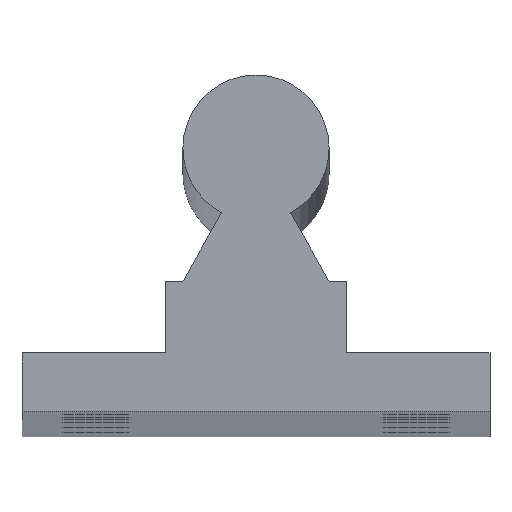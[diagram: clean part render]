
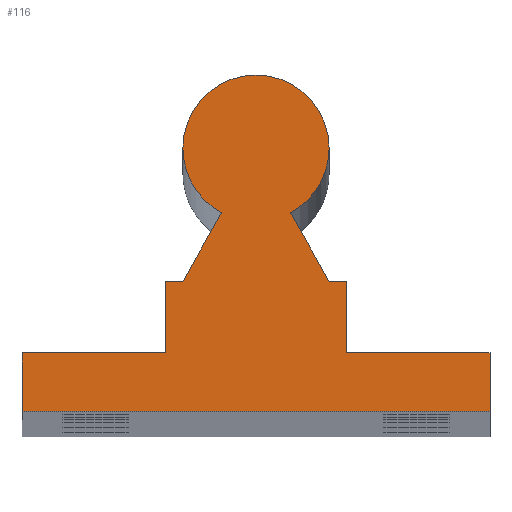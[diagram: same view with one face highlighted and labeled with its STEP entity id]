
A CAD part, top view. The second image highlights one B-rep face of the part: STEP entity #116.
In plain terms, the highlighted planar face has unit normal (0, 0, 1).
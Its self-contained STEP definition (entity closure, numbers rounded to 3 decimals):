
#12 = PLANE ( 'NONE',  #951 ) ;
#14 = LINE ( 'NONE', #324, #986 ) ;
#51 = ORIENTED_EDGE ( 'NONE', *, *, #80, .T. ) ;
#80 = EDGE_CURVE ( 'NONE', #1079, #1150, #100, .T. ) ;
#93 = DIRECTION ( 'NONE',  ( 0., 1., 0. ) ) ;
#94 = VERTEX_POINT ( 'NONE', #946 ) ;
#97 = CARTESIAN_POINT ( 'NONE',  ( -6.2, -7.5, 1000. ) ) ;
#100 = CIRCLE ( 'NONE', #491, 5. ) ;
#102 = ORIENTED_EDGE ( 'NONE', *, *, #2039, .T. ) ;
#116 = ADVANCED_FACE ( 'NONE', ( #1422 ), #12, .T. ) ;
#123 = VERTEX_POINT ( 'NONE', #1265 ) ;
#154 = ORIENTED_EDGE ( 'NONE', *, *, #1648, .T. ) ;
#159 = CARTESIAN_POINT ( 'NONE',  ( 5., 6.5, 1000. ) ) ;
#186 = DIRECTION ( 'NONE',  ( -0.492, -0.87, 0. ) ) ;
#238 = AXIS2_PLACEMENT_3D ( 'NONE', #776, #271, #2011 ) ;
#247 = ORIENTED_EDGE ( 'NONE', *, *, #1148, .T. ) ;
#271 = DIRECTION ( 'NONE',  ( 0., 0., 1. ) ) ;
#304 = VERTEX_POINT ( 'NONE', #1328 ) ;
#324 = CARTESIAN_POINT ( 'NONE',  ( -5., -2.6, 1000. ) ) ;
#338 = ORIENTED_EDGE ( 'NONE', *, *, #1468, .T. ) ;
#355 = ORIENTED_EDGE ( 'NONE', *, *, #670, .T. ) ;
#366 = VERTEX_POINT ( 'NONE', #1573 ) ;
#371 = CARTESIAN_POINT ( 'NONE',  ( -6.2, -7.5, 1000. ) ) ;
#411 = DIRECTION ( 'NONE',  ( 0., -1., 0. ) ) ;
#425 = DIRECTION ( 'NONE',  ( -0.492, 0.87, 0. ) ) ;
#427 = VERTEX_POINT ( 'NONE', #841 ) ;
#437 = VERTEX_POINT ( 'NONE', #991 ) ;
#457 = DIRECTION ( 'NONE',  ( 0., 0., 1. ) ) ;
#472 = CARTESIAN_POINT ( 'NONE',  ( -5., 6.5, 1000. ) ) ;
#478 = CARTESIAN_POINT ( 'NONE',  ( -2.35, 2.087, 1000. ) ) ;
#491 = AXIS2_PLACEMENT_3D ( 'NONE', #1199, #457, #2035 ) ;
#495 = DIRECTION ( 'NONE',  ( 1., 0., 0. ) ) ;
#530 = DIRECTION ( 'NONE',  ( -1., 0., 0. ) ) ;
#572 = LINE ( 'NONE', #1861, #609 ) ;
#609 = VECTOR ( 'NONE', #425, 1000. ) ;
#615 = ORIENTED_EDGE ( 'NONE', *, *, #1849, .T. ) ;
#654 = CARTESIAN_POINT ( 'NONE',  ( 16., -7.5, 1000. ) ) ;
#670 = EDGE_CURVE ( 'NONE', #366, #671, #2049, .T. ) ;
#671 = VERTEX_POINT ( 'NONE', #159 ) ;
#726 = DIRECTION ( 'NONE',  ( -1., 0., 0. ) ) ;
#734 = ORIENTED_EDGE ( 'NONE', *, *, #1036, .T. ) ;
#741 = EDGE_LOOP ( 'NONE', ( #1699, #154, #355, #995, #51, #615, #102, #1299, #1945, #338, #1223, #1353, #247, #734 ) ) ;
#776 = CARTESIAN_POINT ( 'NONE',  ( 0., 6.5, 1000. ) ) ;
#791 = VERTEX_POINT ( 'NONE', #371 ) ;
#799 = LINE ( 'NONE', #1116, #1858 ) ;
#818 = EDGE_CURVE ( 'NONE', #427, #1597, #1979, .T. ) ;
#838 = VECTOR ( 'NONE', #530, 1000. ) ;
#841 = CARTESIAN_POINT ( 'NONE',  ( 6.2, -2.6, 1000. ) ) ;
#877 = CARTESIAN_POINT ( 'NONE',  ( 0., 6.5, 1000. ) ) ;
#893 = EDGE_CURVE ( 'NONE', #1625, #123, #1665, .T. ) ;
#924 = VERTEX_POINT ( 'NONE', #1333 ) ;
#946 = CARTESIAN_POINT ( 'NONE',  ( -16., -11.5, 1000. ) ) ;
#951 = AXIS2_PLACEMENT_3D ( 'NONE', #1286, #972, #495 ) ;
#972 = DIRECTION ( 'NONE',  ( 0., 0., 1. ) ) ;
#986 = VECTOR ( 'NONE', #1559, 1000. ) ;
#991 = CARTESIAN_POINT ( 'NONE',  ( -5., -2.6, 1000. ) ) ;
#995 = ORIENTED_EDGE ( 'NONE', *, *, #1977, .T. ) ;
#1005 = LINE ( 'NONE', #1191, #2026 ) ;
#1010 = DIRECTION ( 'NONE',  ( 0., 0., 1. ) ) ;
#1036 = EDGE_CURVE ( 'NONE', #304, #427, #1612, .T. ) ;
#1039 = CARTESIAN_POINT ( 'NONE',  ( 16., -11.5, 1000. ) ) ;
#1079 = VERTEX_POINT ( 'NONE', #472 ) ;
#1090 = VERTEX_POINT ( 'NONE', #1789 ) ;
#1107 = EDGE_CURVE ( 'NONE', #94, #1625, #799, .T. ) ;
#1116 = CARTESIAN_POINT ( 'NONE',  ( -16., -11.5, 1000. ) ) ;
#1141 = LINE ( 'NONE', #1922, #1938 ) ;
#1148 = EDGE_CURVE ( 'NONE', #123, #304, #1267, .T. ) ;
#1150 = VERTEX_POINT ( 'NONE', #478 ) ;
#1191 = CARTESIAN_POINT ( 'NONE',  ( -16., -7.5, 1000. ) ) ;
#1199 = CARTESIAN_POINT ( 'NONE',  ( 0., 6.5, 1000. ) ) ;
#1208 = CARTESIAN_POINT ( 'NONE',  ( 16., -11.5, 1000. ) ) ;
#1223 = ORIENTED_EDGE ( 'NONE', *, *, #1107, .T. ) ;
#1265 = CARTESIAN_POINT ( 'NONE',  ( 16., -7.5, 1000. ) ) ;
#1267 = LINE ( 'NONE', #654, #1787 ) ;
#1286 = CARTESIAN_POINT ( 'NONE',  ( 0., 6.5, 1000. ) ) ;
#1288 = AXIS2_PLACEMENT_3D ( 'NONE', #877, #1010, #1801 ) ;
#1299 = ORIENTED_EDGE ( 'NONE', *, *, #1584, .T. ) ;
#1328 = CARTESIAN_POINT ( 'NONE',  ( 6.2, -7.5, 1000. ) ) ;
#1333 = CARTESIAN_POINT ( 'NONE',  ( -16., -7.5, 1000. ) ) ;
#1343 = CARTESIAN_POINT ( 'NONE',  ( 6.2, -2.6, 1000. ) ) ;
#1344 = VECTOR ( 'NONE', #1955, 1000. ) ;
#1353 = ORIENTED_EDGE ( 'NONE', *, *, #893, .T. ) ;
#1422 = FACE_OUTER_BOUND ( 'NONE', #741, .T. ) ;
#1445 = DIRECTION ( 'NONE',  ( 1., 0., 0. ) ) ;
#1468 = EDGE_CURVE ( 'NONE', #924, #94, #1005, .T. ) ;
#1518 = CIRCLE ( 'NONE', #1288, 5. ) ;
#1524 = CARTESIAN_POINT ( 'NONE',  ( 5., -2.6, 1000. ) ) ;
#1559 = DIRECTION ( 'NONE',  ( -1., 0., 0. ) ) ;
#1573 = CARTESIAN_POINT ( 'NONE',  ( 2.35, 2.087, 1000. ) ) ;
#1584 = EDGE_CURVE ( 'NONE', #1090, #791, #2033, .T. ) ;
#1597 = VERTEX_POINT ( 'NONE', #1524 ) ;
#1612 = LINE ( 'NONE', #1913, #1344 ) ;
#1625 = VERTEX_POINT ( 'NONE', #1208 ) ;
#1638 = DIRECTION ( 'NONE',  ( 0., -1., 0. ) ) ;
#1641 = VECTOR ( 'NONE', #93, 1000. ) ;
#1648 = EDGE_CURVE ( 'NONE', #1597, #366, #572, .T. ) ;
#1665 = LINE ( 'NONE', #1039, #1641 ) ;
#1699 = ORIENTED_EDGE ( 'NONE', *, *, #818, .T. ) ;
#1721 = VECTOR ( 'NONE', #726, 1000. ) ;
#1787 = VECTOR ( 'NONE', #1921, 1000. ) ;
#1789 = CARTESIAN_POINT ( 'NONE',  ( -6.2, -2.6, 1000. ) ) ;
#1801 = DIRECTION ( 'NONE',  ( 1., 0., 0. ) ) ;
#1849 = EDGE_CURVE ( 'NONE', #1150, #437, #1141, .T. ) ;
#1858 = VECTOR ( 'NONE', #1445, 1000. ) ;
#1861 = CARTESIAN_POINT ( 'NONE',  ( 5., -2.6, 1000. ) ) ;
#1878 = LINE ( 'NONE', #97, #1721 ) ;
#1913 = CARTESIAN_POINT ( 'NONE',  ( 6.2, -7.5, 1000. ) ) ;
#1921 = DIRECTION ( 'NONE',  ( -1., 0., 0. ) ) ;
#1922 = CARTESIAN_POINT ( 'NONE',  ( -2.35, 2.087, 1000. ) ) ;
#1938 = VECTOR ( 'NONE', #186, 1000. ) ;
#1945 = ORIENTED_EDGE ( 'NONE', *, *, #2000, .T. ) ;
#1955 = DIRECTION ( 'NONE',  ( 0., 1., 0. ) ) ;
#1977 = EDGE_CURVE ( 'NONE', #671, #1079, #1518, .T. ) ;
#1979 = LINE ( 'NONE', #1343, #838 ) ;
#2000 = EDGE_CURVE ( 'NONE', #791, #924, #1878, .T. ) ;
#2011 = DIRECTION ( 'NONE',  ( 1., 0., 0. ) ) ;
#2026 = VECTOR ( 'NONE', #1638, 1000. ) ;
#2033 = LINE ( 'NONE', #2048, #2060 ) ;
#2035 = DIRECTION ( 'NONE',  ( 1., 0., 0. ) ) ;
#2039 = EDGE_CURVE ( 'NONE', #437, #1090, #14, .T. ) ;
#2048 = CARTESIAN_POINT ( 'NONE',  ( -6.2, -2.6, 1000. ) ) ;
#2049 = CIRCLE ( 'NONE', #238, 5. ) ;
#2060 = VECTOR ( 'NONE', #411, 1000. ) ;
